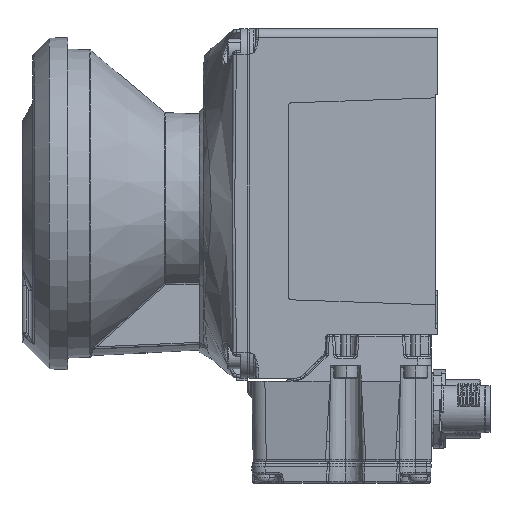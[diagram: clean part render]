
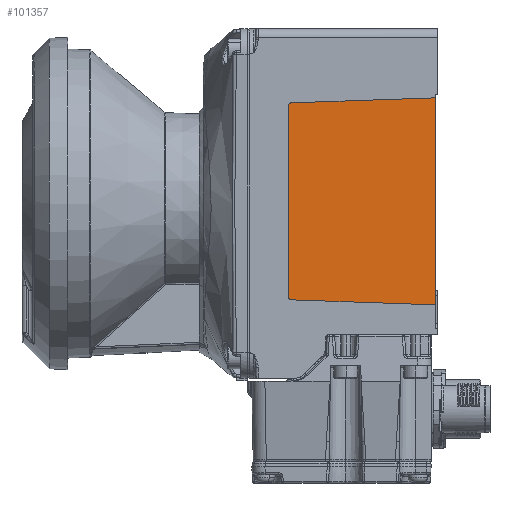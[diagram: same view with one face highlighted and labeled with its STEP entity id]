
A CAD part, left-side view. The second image highlights one B-rep face of the part: STEP entity #101357.
In plain terms, the highlighted planar face has unit normal (-1, -0.018, 0).
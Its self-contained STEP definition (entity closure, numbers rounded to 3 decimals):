
#1684 = VERTEX_POINT ( 'NONE', #73452 ) ;
#3989 = CARTESIAN_POINT ( 'NONE',  ( -38.915, -2.5, 23. ) ) ;
#6940 = CARTESIAN_POINT ( 'NONE',  ( -39.5, 31., 22.517 ) ) ;
#7641 = DIRECTION ( 'NONE',  ( 0.017, -0.999, 0.035 ) ) ;
#10611 = DIRECTION ( 'NONE',  ( -0.017, 1., 0. ) ) ;
#12112 = CARTESIAN_POINT ( 'NONE',  ( -38.915, -2.49, -23.169 ) ) ;
#16589 = CARTESIAN_POINT ( 'NONE',  ( -39.5, 31., -21.517 ) ) ;
#18238 = CARTESIAN_POINT ( 'NONE',  ( -38.915, -2.49, 24.169 ) ) ;
#20508 = DIRECTION ( 'NONE',  ( -1., -0.017, 0. ) ) ;
#22982 = CARTESIAN_POINT ( 'NONE',  ( -39.492, 30.517, -22.017 ) ) ;
#23383 = DIRECTION ( 'NONE',  ( -0.017, 0.999, 0.035 ) ) ;
#27420 = CARTESIAN_POINT ( 'NONE',  ( -38.915, -2.5, -23.17 ) ) ;
#27914 = EDGE_CURVE ( 'NONE', #90769, #91881, #111528, .T. ) ;
#30982 = EDGE_CURVE ( 'NONE', #48202, #91881, #33385, .T. ) ;
#33385 =( BOUNDED_CURVE ( )  B_SPLINE_CURVE ( 3, ( #16589, #123746, #114600, #62437 ),
 .UNSPECIFIED., .F., .F. ) 
 B_SPLINE_CURVE_WITH_KNOTS ( ( 4, 4 ),
 ( 3.142, 4.677 ),
 .UNSPECIFIED. ) 
 CURVE ( )  GEOMETRIC_REPRESENTATION_ITEM ( )  RATIONAL_B_SPLINE_CURVE ( ( 1., 0.813, 0.813, 1. ) ) 
 REPRESENTATION_ITEM ( '' )  );
#36099 = CARTESIAN_POINT ( 'NONE',  ( -39.5, 31., 23. ) ) ;
#38311 = ORIENTED_EDGE ( 'NONE', *, *, #27914, .F. ) ;
#39551 = FACE_OUTER_BOUND ( 'NONE', #112144, .T. ) ;
#40255 = VECTOR ( 'NONE', #47768, 1000. ) ;
#41758 = CARTESIAN_POINT ( 'NONE',  ( -39.5, 31., 22.802 ) ) ;
#44226 = VECTOR ( 'NONE', #23383, 1000. ) ;
#47768 = DIRECTION ( 'NONE',  ( 0., 0., -1. ) ) ;
#47814 = EDGE_CURVE ( 'NONE', #63809, #48832, #115970, .T. ) ;
#48116 = LINE ( 'NONE', #36099, #50253 ) ;
#48202 = VERTEX_POINT ( 'NONE', #76767 ) ;
#48832 = VERTEX_POINT ( 'NONE', #6940 ) ;
#50253 = VECTOR ( 'NONE', #57334, 1000. ) ;
#50975 = CARTESIAN_POINT ( 'NONE',  ( -39.497, 30.802, 23.007 ) ) ;
#53151 = EDGE_CURVE ( 'NONE', #48202, #48832, #48116, .T. ) ;
#57334 = DIRECTION ( 'NONE',  ( 0., 0., 1. ) ) ;
#58199 = ORIENTED_EDGE ( 'NONE', *, *, #53151, .F. ) ;
#62169 = CARTESIAN_POINT ( 'NONE',  ( -39.5, 31., 23. ) ) ;
#62437 = CARTESIAN_POINT ( 'NONE',  ( -39.492, 30.517, -22.017 ) ) ;
#63809 = VERTEX_POINT ( 'NONE', #68061 ) ;
#68061 = CARTESIAN_POINT ( 'NONE',  ( -39.492, 30.517, 23.017 ) ) ;
#73452 = CARTESIAN_POINT ( 'NONE',  ( -38.915, -2.5, 24.17 ) ) ;
#76767 = CARTESIAN_POINT ( 'NONE',  ( -39.5, 31., -21.517 ) ) ;
#85396 = PLANE ( 'NONE',  #93000 ) ;
#85488 = CARTESIAN_POINT ( 'NONE',  ( -39.492, 30.517, 23.017 ) ) ;
#85753 = ORIENTED_EDGE ( 'NONE', *, *, #30982, .T. ) ;
#90769 = VERTEX_POINT ( 'NONE', #27420 ) ;
#91881 = VERTEX_POINT ( 'NONE', #22982 ) ;
#93000 = AXIS2_PLACEMENT_3D ( 'NONE', #62169, #20508, #10611 ) ;
#94007 = CARTESIAN_POINT ( 'NONE',  ( -39.5, 31., 22.517 ) ) ;
#98126 = ORIENTED_EDGE ( 'NONE', *, *, #47814, .T. ) ;
#100664 = LINE ( 'NONE', #3989, #40255 ) ;
#101357 = ADVANCED_FACE ( 'NONE', ( #39551 ), #85396, .T. ) ;
#104311 = LINE ( 'NONE', #18238, #116905 ) ;
#111528 = LINE ( 'NONE', #12112, #44226 ) ;
#112058 = EDGE_CURVE ( 'NONE', #1684, #90769, #100664, .T. ) ;
#112144 = EDGE_LOOP ( 'NONE', ( #137483, #98126, #58199, #85753, #38311, #121992 ) ) ;
#114600 = CARTESIAN_POINT ( 'NONE',  ( -39.497, 30.802, -22.007 ) ) ;
#115970 =( BOUNDED_CURVE ( )  B_SPLINE_CURVE ( 3, ( #85488, #50975, #41758, #94007 ),
 .UNSPECIFIED., .F., .F. ) 
 B_SPLINE_CURVE_WITH_KNOTS ( ( 4, 4 ),
 ( 1.606, 3.142 ),
 .UNSPECIFIED. ) 
 CURVE ( )  GEOMETRIC_REPRESENTATION_ITEM ( )  RATIONAL_B_SPLINE_CURVE ( ( 1., 0.813, 0.813, 1. ) ) 
 REPRESENTATION_ITEM ( '' )  );
#116905 = VECTOR ( 'NONE', #7641, 1000. ) ;
#121992 = ORIENTED_EDGE ( 'NONE', *, *, #112058, .F. ) ;
#123746 = CARTESIAN_POINT ( 'NONE',  ( -39.5, 31., -21.802 ) ) ;
#131831 = EDGE_CURVE ( 'NONE', #63809, #1684, #104311, .T. ) ;
#137483 = ORIENTED_EDGE ( 'NONE', *, *, #131831, .F. ) ;
